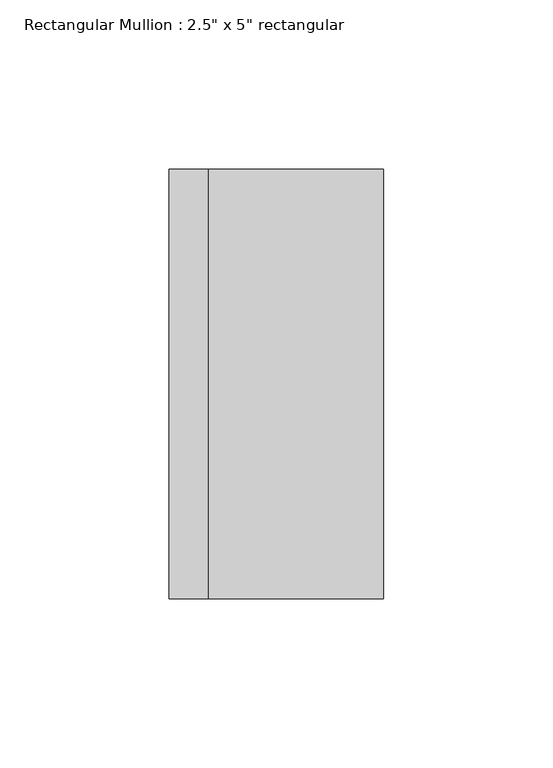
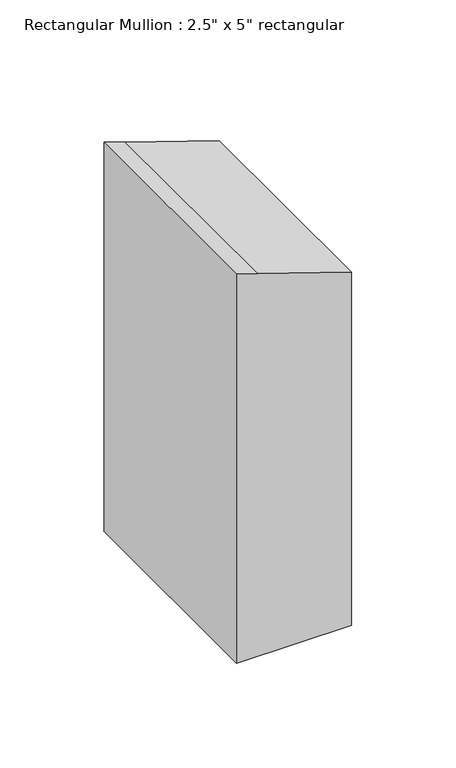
"""IFC4 building model written with IfcOpenShell, lengths in millimetres: member geometry."""

from ifc_helpers import new_model, si_unit, frame, origin, place, context, project, spatial, polyline, outline, extrude, source, transform, mapped, element, save


def member_a66a3142(model_context):
    return source(origin(), model_context, "Body", "SweptSolid", [
        extrude(outline(polyline([(-77.5182105, 31.75), (-60.2413894, -20.0804631), (-56.3515438, -31.75), (-284.0792564, -31.75), (-284.0792564, 31.75), (-77.5182105, 31.75)])), frame((0.0, -63.5, 0.0), z_axis=(0.0, 1.0, 0.0), x_axis=(0.0, 0.0, 1.0)), (0.0, 0.0, 1.0), 127.0),
    ])


if __name__ == "__main__":
    model = new_model("IFC4")
    model_context = context("Model", 3, world=origin())
    ifc_project = project(units=[si_unit("LENGTHUNIT", "METRE", prefix="MILLI")], contexts=[model_context])
    site = spatial("IfcSite", under=ifc_project)
    building = spatial("IfcBuilding", under=site)
    placement = place(None, origin())
    member_shape = member_a66a3142(model_context)
    element("IfcMember", 1, ObjectType="Rectangular Mullion : 2.5\" x 5\" rectangular", at=placement, inside=building, context=model_context, shape_type="MappedRepresentation", body=[
        mapped(member_shape, transform((0.0, 0.0, 0.0), x_axis=(1.0, 0.0, 0.0), y_axis=(0.0, 1.0, 0.0), z_axis=(0.0, 0.0, 1.0))),
    ])
    save(model, "model.ifc")
